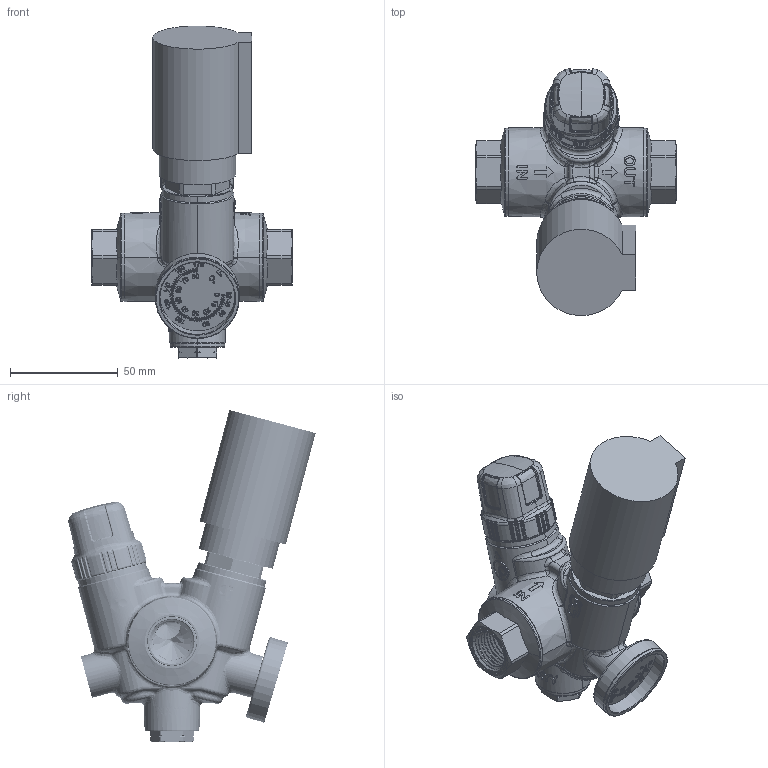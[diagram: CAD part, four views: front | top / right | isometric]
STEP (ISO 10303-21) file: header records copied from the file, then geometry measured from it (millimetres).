
FILE_DESCRIPTION(('Open CASCADE Model'),'2;1');
FILE_NAME('Open CASCADE Shape Model','2022-08-03T09:17:24',('Author'),( 'Open CASCADE'),'Open CASCADE STEP processor 7.3','Open CASCADE 7.3' ,'Unknown');
FILE_SCHEMA(('AUTOMOTIVE_DESIGN { 1 0 10303 214 1 1 1 1 }'));
Length unit declared in the file: millimetre
Products named in the file (20): Open CASCADE STEP translator 7.3 1; Open CASCADE STEP translator 7.3 1.1; Open CASCADE STEP translator 7.3 1.2; Open CASCADE STEP translator 7.3 1.3; Open CASCADE STEP translator 7.3 1.4; Open CASCADE STEP translator 7.3 1.5; Open CASCADE STEP translator 7.3 1.6; Open CASCADE STEP translator 7.3 1.7; Open CASCADE STEP translator 7.3 1.8; Open CASCADE STEP translator 7.3 1.9; Open CASCADE STEP translator 7.3 1.10; Open CASCADE STEP translator 7.3 1.11; Open CASCADE STEP translator 7.3 1.12; Open CASCADE STEP translator 7.3 1.13; Open CASCADE STEP translator 7.3 1.14; Open CASCADE STEP translator 7.3 1.15; Open CASCADE STEP translator 7.3 1.16; Open CASCADE STEP translator 7.3 1.17; Open CASCADE STEP translator 7.3 1.18; Open CASCADE STEP translator 7.3 1.19
Assembly tree (19 placements, depth 2):
  Open CASCADE STEP translator 7.3 1
    Open CASCADE STEP translator 7.3 1.1
    Open CASCADE STEP translator 7.3 1.2
    Open CASCADE STEP translator 7.3 1.3
    Open CASCADE STEP translator 7.3 1.4
    Open CASCADE STEP translator 7.3 1.5
    Open CASCADE STEP translator 7.3 1.6
    Open CASCADE STEP translator 7.3 1.7
    Open CASCADE STEP translator 7.3 1.8
    Open CASCADE STEP translator 7.3 1.9
    Open CASCADE STEP translator 7.3 1.10
    Open CASCADE STEP translator 7.3 1.11
    Open CASCADE STEP translator 7.3 1.12
    Open CASCADE STEP translator 7.3 1.13
    Open CASCADE STEP translator 7.3 1.14
    Open CASCADE STEP translator 7.3 1.15
    Open CASCADE STEP translator 7.3 1.16
    Open CASCADE STEP translator 7.3 1.17
    Open CASCADE STEP translator 7.3 1.18
    Open CASCADE STEP translator 7.3 1.19
Bounding box: 93.4 x 114.98 x 154.4 mm (x, y, z)
Volume: 223952.3 mm3; surface area: 99223.9 mm2
Topology: 19 solids, 20 shells, 4587 faces, 11824 edges, 7450 vertices
Faces by surface type: extrusion 1173, plane 1086, cylinder 964, bspline 558, cone 411, torus 295, sphere 52, revolution 48
Full cylindrical faces by diameter (mm): 35.672 x1
Entity records: 499172 total; most frequent: CARTESIAN_POINT 292188, DIRECTION 27983, ORIENTED_EDGE 23612, PCURVE 23612, DEFINITIONAL_REPRESENTATION 23612, B_SPLINE_CURVE_WITH_KNOTS 18000, VECTOR 15703, LINE 14530
